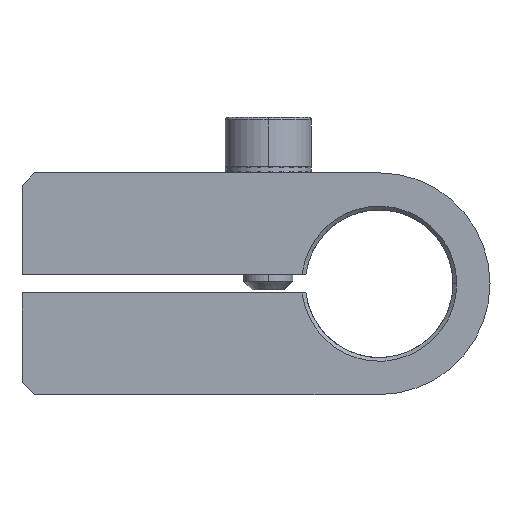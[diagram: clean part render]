
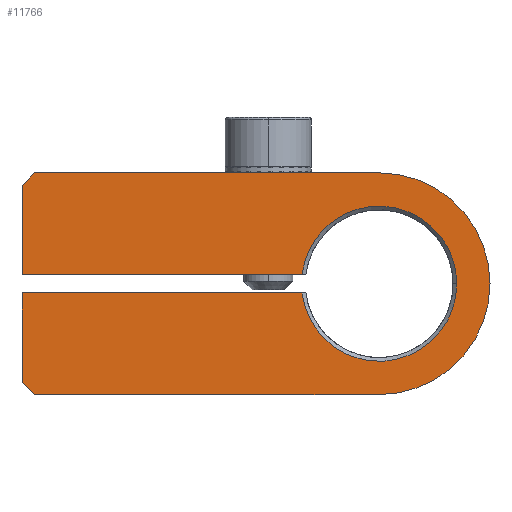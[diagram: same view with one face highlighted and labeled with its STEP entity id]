
A CAD part, front view. The second image highlights one B-rep face of the part: STEP entity #11766.
In plain terms, the highlighted planar face has unit normal (0, -1, 0).
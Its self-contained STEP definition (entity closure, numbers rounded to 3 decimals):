
#276 = DIRECTION ( 'NONE',  ( 0., -1., 0. ) ) ;
#669 = CARTESIAN_POINT ( 'NONE',  ( -63.039, 15.471, 1.908 ) ) ;
#706 = CARTESIAN_POINT ( 'NONE',  ( -62.039, 15.471, 10.908 ) ) ;
#917 = DIRECTION ( 'NONE',  ( 0., 1., 0. ) ) ;
#976 = LINE ( 'NONE', #1718, #5926 ) ;
#993 = ORIENTED_EDGE ( 'NONE', *, *, #9851, .T. ) ;
#1122 = EDGE_CURVE ( 'NONE', #8938, #4680, #4241, .T. ) ;
#1196 = LINE ( 'NONE', #10433, #2613 ) ;
#1222 = EDGE_LOOP ( 'NONE', ( #3830, #3370, #2795, #1697, #993, #7883, #7549, #7096, #12498, #9721, #9280 ) ) ;
#1697 = ORIENTED_EDGE ( 'NONE', *, *, #2725, .T. ) ;
#1718 = CARTESIAN_POINT ( 'NONE',  ( -43.925, 15.471, 10.908 ) ) ;
#1764 = FACE_OUTER_BOUND ( 'NONE', #1222, .T. ) ;
#2159 = CARTESIAN_POINT ( 'NONE',  ( -40.295, 15.471, 1.158 ) ) ;
#2236 = PLANE ( 'NONE',  #3153 ) ;
#2329 = VERTEX_POINT ( 'NONE', #12496 ) ;
#2355 = LINE ( 'NONE', #11573, #7628 ) ;
#2613 = VECTOR ( 'NONE', #11396, 1000. ) ;
#2716 = DIRECTION ( 'NONE',  ( -1., 0., 0. ) ) ;
#2725 = EDGE_CURVE ( 'NONE', #4698, #2329, #11795, .T. ) ;
#2795 = ORIENTED_EDGE ( 'NONE', *, *, #11527, .T. ) ;
#3041 = AXIS2_PLACEMENT_3D ( 'NONE', #5507, #12293, #6505 ) ;
#3081 = VERTEX_POINT ( 'NONE', #2159 ) ;
#3153 = AXIS2_PLACEMENT_3D ( 'NONE', #6197, #276, #7204 ) ;
#3315 = CIRCLE ( 'NONE', #3041, 9. ) ;
#3369 = DIRECTION ( 'NONE',  ( -0.707, 0., -0.707 ) ) ;
#3370 = ORIENTED_EDGE ( 'NONE', *, *, #1122, .T. ) ;
#3829 = AXIS2_PLACEMENT_3D ( 'NONE', #6864, #917, #7856 ) ;
#3830 = ORIENTED_EDGE ( 'NONE', *, *, #7187, .T. ) ;
#3896 = EDGE_CURVE ( 'NONE', #11037, #11634, #1196, .T. ) ;
#4127 = VERTEX_POINT ( 'NONE', #706 ) ;
#4184 = VERTEX_POINT ( 'NONE', #11708 ) ;
#4241 = LINE ( 'NONE', #5286, #9145 ) ;
#4368 = CARTESIAN_POINT ( 'NONE',  ( -62.039, 15.471, 10.908 ) ) ;
#4486 = LINE ( 'NONE', #669, #12243 ) ;
#4644 = DIRECTION ( 'NONE',  ( 0., 0., -1. ) ) ;
#4680 = VERTEX_POINT ( 'NONE', #12248 ) ;
#4698 = VERTEX_POINT ( 'NONE', #5466 ) ;
#4700 = EDGE_CURVE ( 'NONE', #11634, #8373, #3315, .T. ) ;
#4921 = DIRECTION ( 'NONE',  ( 1., 0., 0. ) ) ;
#4956 = LINE ( 'NONE', #4368, #7272 ) ;
#5158 = DIRECTION ( 'NONE',  ( 0., 0., -1. ) ) ;
#5286 = CARTESIAN_POINT ( 'NONE',  ( -63.039, 15.471, 6.283 ) ) ;
#5466 = CARTESIAN_POINT ( 'NONE',  ( -40.295, 15.471, 2.658 ) ) ;
#5507 = CARTESIAN_POINT ( 'NONE',  ( -34.039, 15.471, 1.908 ) ) ;
#5926 = VECTOR ( 'NONE', #2716, 1000. ) ;
#6197 = CARTESIAN_POINT ( 'NONE',  ( -63.039, 15.471, 10.908 ) ) ;
#6444 = AXIS2_PLACEMENT_3D ( 'NONE', #7888, #8471, #8388 ) ;
#6505 = DIRECTION ( 'NONE',  ( 0., 0., 1. ) ) ;
#6864 = CARTESIAN_POINT ( 'NONE',  ( -34.039, 15.471, 1.908 ) ) ;
#6925 = CARTESIAN_POINT ( 'NONE',  ( -63.039, 15.471, 9.908 ) ) ;
#7096 = ORIENTED_EDGE ( 'NONE', *, *, #7306, .T. ) ;
#7187 = EDGE_CURVE ( 'NONE', #4127, #8938, #4956, .T. ) ;
#7190 = VERTEX_POINT ( 'NONE', #11211 ) ;
#7204 = DIRECTION ( 'NONE',  ( 0., 0., -1. ) ) ;
#7272 = VECTOR ( 'NONE', #3369, 1000. ) ;
#7306 = EDGE_CURVE ( 'NONE', #4184, #11037, #12668, .T. ) ;
#7379 = CARTESIAN_POINT ( 'NONE',  ( -62.039, 15.471, -7.092 ) ) ;
#7492 = VECTOR ( 'NONE', #4921, 1000. ) ;
#7549 = ORIENTED_EDGE ( 'NONE', *, *, #12565, .T. ) ;
#7628 = VECTOR ( 'NONE', #12468, 1000. ) ;
#7829 = DIRECTION ( 'NONE',  ( 0.707, 0., -0.707 ) ) ;
#7856 = DIRECTION ( 'NONE',  ( 1., 0., 0. ) ) ;
#7883 = ORIENTED_EDGE ( 'NONE', *, *, #12066, .T. ) ;
#7888 = CARTESIAN_POINT ( 'NONE',  ( -34.039, 15.471, 1.908 ) ) ;
#8373 = VERTEX_POINT ( 'NONE', #12098 ) ;
#8388 = DIRECTION ( 'NONE',  ( 1., 0., 0. ) ) ;
#8471 = DIRECTION ( 'NONE',  ( 0., 1., 0. ) ) ;
#8938 = VERTEX_POINT ( 'NONE', #6925 ) ;
#9145 = VECTOR ( 'NONE', #5158, 1000. ) ;
#9192 = CIRCLE ( 'NONE', #3829, 6.3 ) ;
#9280 = ORIENTED_EDGE ( 'NONE', *, *, #10681, .T. ) ;
#9570 = CARTESIAN_POINT ( 'NONE',  ( -62.539, 15.471, -6.592 ) ) ;
#9721 = ORIENTED_EDGE ( 'NONE', *, *, #4700, .T. ) ;
#9851 = EDGE_CURVE ( 'NONE', #2329, #3081, #9192, .T. ) ;
#10146 = VECTOR ( 'NONE', #7829, 1000. ) ;
#10433 = CARTESIAN_POINT ( 'NONE',  ( -43.925, 15.471, -7.092 ) ) ;
#10681 = EDGE_CURVE ( 'NONE', #8373, #4127, #976, .T. ) ;
#10785 = CARTESIAN_POINT ( 'NONE',  ( -51.516, 15.471, 2.658 ) ) ;
#10860 = CARTESIAN_POINT ( 'NONE',  ( -34.039, 15.471, -7.092 ) ) ;
#11037 = VERTEX_POINT ( 'NONE', #7379 ) ;
#11211 = CARTESIAN_POINT ( 'NONE',  ( -63.039, 15.471, 1.158 ) ) ;
#11396 = DIRECTION ( 'NONE',  ( 1., 0., 0. ) ) ;
#11527 = EDGE_CURVE ( 'NONE', #4680, #4698, #12592, .T. ) ;
#11573 = CARTESIAN_POINT ( 'NONE',  ( -43.925, 15.471, 1.158 ) ) ;
#11634 = VERTEX_POINT ( 'NONE', #10860 ) ;
#11708 = CARTESIAN_POINT ( 'NONE',  ( -63.039, 15.471, -6.092 ) ) ;
#11766 = ADVANCED_FACE ( 'NONE', ( #1764 ), #2236, .T. ) ;
#11795 = CIRCLE ( 'NONE', #6444, 6.3 ) ;
#12066 = EDGE_CURVE ( 'NONE', #3081, #7190, #2355, .T. ) ;
#12098 = CARTESIAN_POINT ( 'NONE',  ( -34.039, 15.471, 10.908 ) ) ;
#12243 = VECTOR ( 'NONE', #4644, 1000. ) ;
#12248 = CARTESIAN_POINT ( 'NONE',  ( -63.039, 15.471, 2.658 ) ) ;
#12293 = DIRECTION ( 'NONE',  ( 0., -1., 0. ) ) ;
#12468 = DIRECTION ( 'NONE',  ( -1., 0., 0. ) ) ;
#12496 = CARTESIAN_POINT ( 'NONE',  ( -27.739, 15.471, 1.908 ) ) ;
#12498 = ORIENTED_EDGE ( 'NONE', *, *, #3896, .T. ) ;
#12565 = EDGE_CURVE ( 'NONE', #7190, #4184, #4486, .T. ) ;
#12592 = LINE ( 'NONE', #10785, #7492 ) ;
#12668 = LINE ( 'NONE', #9570, #10146 ) ;
